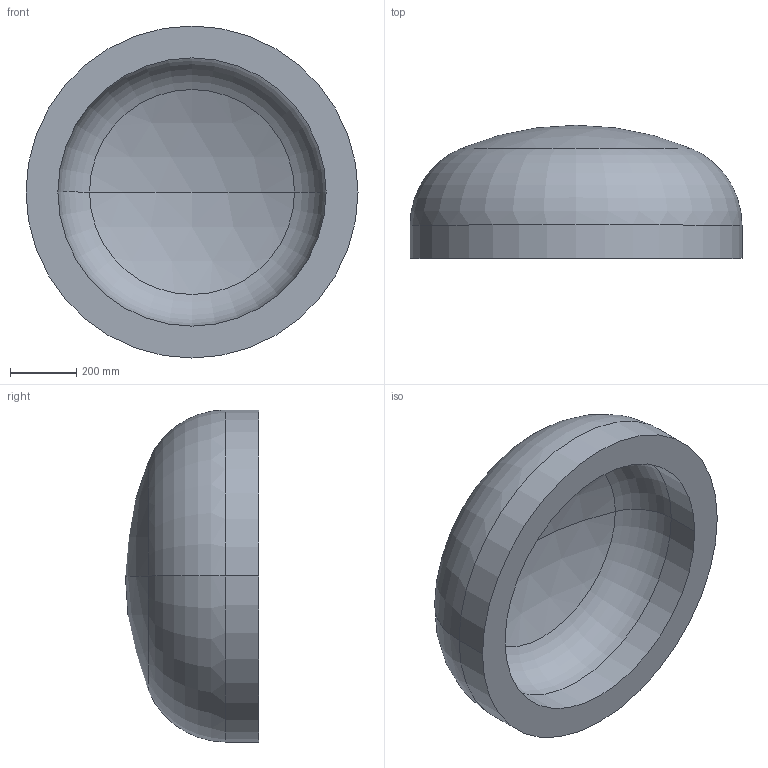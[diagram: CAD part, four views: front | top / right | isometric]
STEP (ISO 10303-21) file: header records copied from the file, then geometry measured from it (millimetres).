
FILE_DESCRIPTION (( 'STEP AP203' ), '1' );
FILE_NAME ('DIN 28013 Korbbogenform_-_Boden DIN 28013 - 1000 x 100 - I - s=96.step', '2016-07-01T08:56:14', ( '' ), ( '' ), 'SwSTEP 2.0', 'SolidWorks 2013', '' );
FILE_SCHEMA (( 'CONFIG_CONTROL_DESIGN' ));
Length unit declared in the file: millimetre
Products named in the file (1): DIN 28013 Korbbogenform_-_Boden DIN 28013 - 1000 x 100 - I - s=96
Bounding box: 1000 x 401 x 1000 mm (x, y, z)
Volume: 120090063.7 mm3; surface area: 2793817.9 mm2
Topology: 1 solids, 1 shells, 13 faces, 24 edges, 14 vertices
Faces by surface type: torus 4, cylinder 4, sphere 4, plane 1
Entity records: 407 total; most frequent: DIRECTION 72, CARTESIAN_POINT 52, ORIENTED_EDGE 48, AXIS2_PLACEMENT_3D 34, EDGE_CURVE 24, CIRCLE 20, VERTEX_POINT 14, EDGE_LOOP 14
